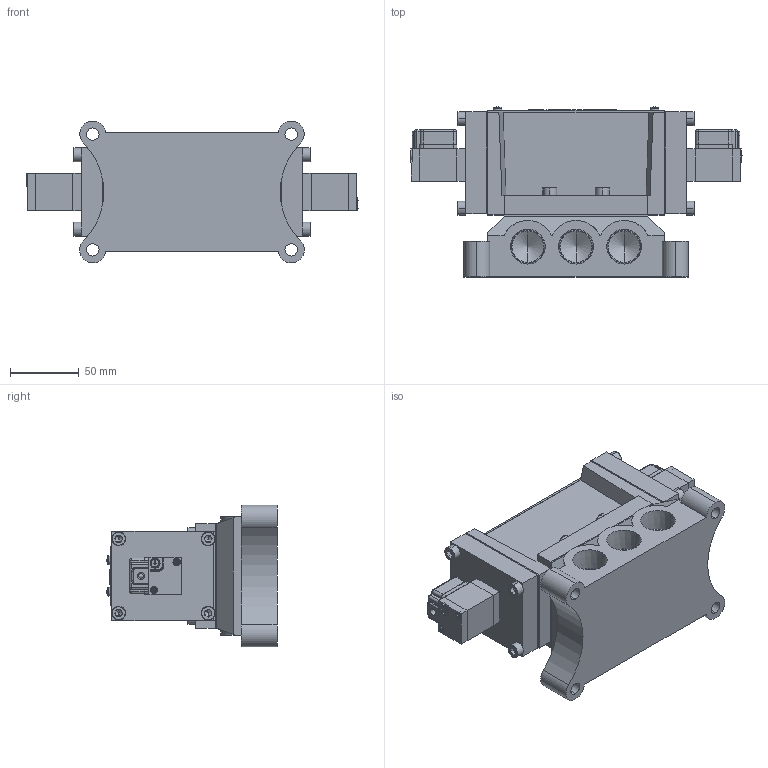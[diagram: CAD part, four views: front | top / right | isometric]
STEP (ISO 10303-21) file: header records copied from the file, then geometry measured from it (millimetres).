
FILE_DESCRIPTION (( 'STEP AP203' ), '1' );
FILE_NAME ('PMD2415#-06-#G#.STEP', '2016-03-09T06:30:14', ( 'Sam Lin' ), ( '' ), 'SwSTEP 2.0', 'SolidWorks 2013', '' );
FILE_SCHEMA (( 'CONFIG_CONTROL_DESIGN' ));
Length unit declared in the file: metre
Products named in the file (16): PM06-C4_1; PMS2415-4; PM06-C6-M3_1; PM15-MARK-24; PM06-C5_1; PMS2415-5; PM06-G1; PM06-C3-M4_1; PMD2415#-06-#G#; ISO 4762 M6 x 12; PMS2415-7; PMS2415-1; PMS2415-6-06; PMS2415-2; PM06-C1_1; PMS2415-3
Assembly tree (39 placements, depth 2):
  PMD2415#-06-#G#
    PMS2415-1
    PMS2415-2
    PMS2415-3  x2
    PMS2415-4  x2
    PM15-MARK-24
    PMS2415-5
    PM06-C3-M4_1  x4
    ISO 4762 M6 x 12  x12
    PMS2415-7  x2
    PMS2415-6-06
    PM06-C1_1  x2
    PM06-C4_1  x2
    PM06-C6-M3_1  x4
    PM06-C5_1  x2
    PM06-G1  x2
Bounding box: 241 x 123.55 x 102.97 mm (x, y, z)
Volume: 1179667.3 mm3; surface area: 218211.2 mm2
Topology: 45 solids, 45 shells, 1087 faces, 2556 edges, 1559 vertices
Faces by surface type: plane 576, cylinder 233, cone 142, bspline 128, torus 8
Entity records: 16791 total; most frequent: CARTESIAN_POINT 3839, DIRECTION 2233, ORIENTED_EDGE 2162, EDGE_CURVE 1081, AXIS2_PLACEMENT_3D 794, VERTEX_POINT 694, LINE 645, VECTOR 645
